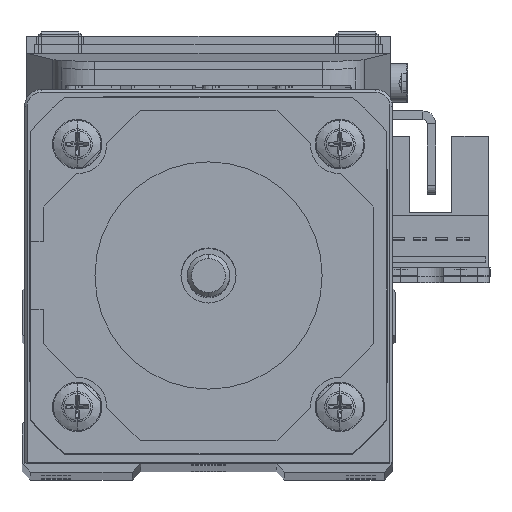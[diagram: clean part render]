
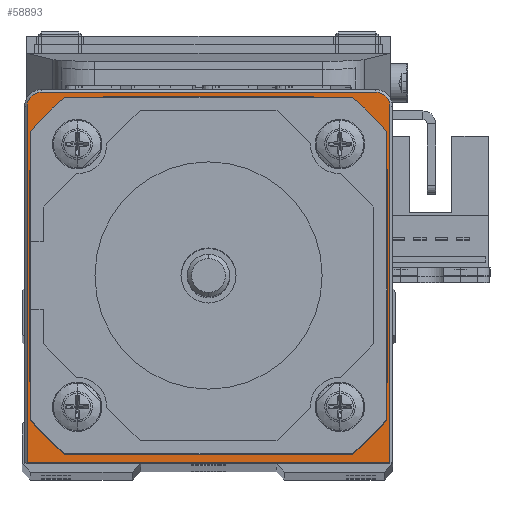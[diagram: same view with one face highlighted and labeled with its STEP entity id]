
A CAD part, top view. The second image highlights one B-rep face of the part: STEP entity #58893.
In plain terms, the highlighted planar face has unit normal (0, 0, 1).
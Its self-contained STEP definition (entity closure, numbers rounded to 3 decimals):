
#1955 = CARTESIAN_POINT ( 'NONE',  ( -21.4, -22., 26.5 ) ) ;
#3157 = ORIENTED_EDGE ( 'NONE', *, *, #7102, .F. ) ;
#3315 = LINE ( 'NONE', #26624, #25701 ) ;
#5572 = CARTESIAN_POINT ( 'NONE',  ( 0., 0., 26.5 ) ) ;
#5792 = DIRECTION ( 'NONE',  ( 0., 1., 0. ) ) ;
#7102 = EDGE_CURVE ( 'NONE', #33638, #39469, #12020, .T. ) ;
#8437 = CARTESIAN_POINT ( 'NONE',  ( 21.4, -22., 26.5 ) ) ;
#9099 = DIRECTION ( 'NONE',  ( 1., 0., 0. ) ) ;
#9599 = CIRCLE ( 'NONE', #52332, 10. ) ;
#10051 = ORIENTED_EDGE ( 'NONE', *, *, #73930, .T. ) ;
#10778 = VERTEX_POINT ( 'NONE', #20257 ) ;
#11689 = CARTESIAN_POINT ( 'NONE',  ( -21.7, -22., 26.5 ) ) ;
#12020 = CIRCLE ( 'NONE', #64537, 10. ) ;
#13186 = CARTESIAN_POINT ( 'NONE',  ( -19.7, 20., 26.5 ) ) ;
#14203 = DIRECTION ( 'NONE',  ( 1., 0., 0. ) ) ;
#14373 = AXIS2_PLACEMENT_3D ( 'NONE', #13186, #36521, #59847 ) ;
#14826 = PLANE ( 'NONE',  #45239 ) ;
#15406 = VECTOR ( 'NONE', #64689, 1000. ) ;
#17258 = EDGE_CURVE ( 'NONE', #27191, #36117, #34855, .T. ) ;
#18023 = LINE ( 'NONE', #41335, #15406 ) ;
#19188 = ORIENTED_EDGE ( 'NONE', *, *, #33228, .T. ) ;
#19224 = ORIENTED_EDGE ( 'NONE', *, *, #53934, .T. ) ;
#20257 = CARTESIAN_POINT ( 'NONE',  ( 19.7, 21.7, 26.5 ) ) ;
#20304 = EDGE_CURVE ( 'NONE', #34432, #67796, #47328, .T. ) ;
#22787 = CARTESIAN_POINT ( 'NONE',  ( 19.7, 20., 26.5 ) ) ;
#25701 = VECTOR ( 'NONE', #49936, 1000. ) ;
#26624 = CARTESIAN_POINT ( 'NONE',  ( -19.7, 21.7, 26.5 ) ) ;
#27191 = VERTEX_POINT ( 'NONE', #8437 ) ;
#27720 = CIRCLE ( 'NONE', #70469, 1.7 ) ;
#28894 = DIRECTION ( 'NONE',  ( 0., 0., 1. ) ) ;
#29280 = EDGE_CURVE ( 'NONE', #39469, #33638, #9599, .T. ) ;
#29999 = ORIENTED_EDGE ( 'NONE', *, *, #29280, .F. ) ;
#33228 = EDGE_CURVE ( 'NONE', #10778, #34432, #3315, .T. ) ;
#33638 = VERTEX_POINT ( 'NONE', #66707 ) ;
#34432 = VERTEX_POINT ( 'NONE', #42712 ) ;
#34855 = LINE ( 'NONE', #58166, #55272 ) ;
#35013 = DIRECTION ( 'NONE',  ( 1., 0., 0. ) ) ;
#36117 = VERTEX_POINT ( 'NONE', #57061 ) ;
#36521 = DIRECTION ( 'NONE',  ( 0., 0., 1. ) ) ;
#38167 = CARTESIAN_POINT ( 'NONE',  ( 0., 0., 26.5 ) ) ;
#38309 = CARTESIAN_POINT ( 'NONE',  ( -10., 0., 26.5 ) ) ;
#39469 = VERTEX_POINT ( 'NONE', #38309 ) ;
#41335 = CARTESIAN_POINT ( 'NONE',  ( -21.4, -22., 26.5 ) ) ;
#42712 = CARTESIAN_POINT ( 'NONE',  ( -19.7, 21.7, 26.5 ) ) ;
#43269 = CARTESIAN_POINT ( 'NONE',  ( 0., 0., 26.5 ) ) ;
#43875 = FACE_OUTER_BOUND ( 'NONE', #64112, .T. ) ;
#44241 = VERTEX_POINT ( 'NONE', #1955 ) ;
#45083 = ORIENTED_EDGE ( 'NONE', *, *, #20304, .T. ) ;
#45239 = AXIS2_PLACEMENT_3D ( 'NONE', #38167, #61498, #9099 ) ;
#46086 = DIRECTION ( 'NONE',  ( 0., 0., 1. ) ) ;
#47328 = CIRCLE ( 'NONE', #14373, 1.7 ) ;
#49681 = ORIENTED_EDGE ( 'NONE', *, *, #52065, .T. ) ;
#49936 = DIRECTION ( 'NONE',  ( -1., 0., 0. ) ) ;
#52065 = EDGE_CURVE ( 'NONE', #36117, #10778, #27720, .T. ) ;
#52203 = DIRECTION ( 'NONE',  ( 1., 0., 0. ) ) ;
#52332 = AXIS2_PLACEMENT_3D ( 'NONE', #43269, #66609, #14203 ) ;
#52441 = VECTOR ( 'NONE', #35013, 1000. ) ;
#53934 = EDGE_CURVE ( 'NONE', #44241, #27191, #64109, .T. ) ;
#55272 = VECTOR ( 'NONE', #5792, 1000. ) ;
#57061 = CARTESIAN_POINT ( 'NONE',  ( 21.4, 20., 26.5 ) ) ;
#57730 = CARTESIAN_POINT ( 'NONE',  ( -21.4, 20., 26.5 ) ) ;
#58166 = CARTESIAN_POINT ( 'NONE',  ( 21.4, 20., 26.5 ) ) ;
#58893 = ADVANCED_FACE ( 'NONE', ( #43875, #67231 ), #14826, .T. ) ;
#59847 = DIRECTION ( 'NONE',  ( 1., 0., 0. ) ) ;
#61498 = DIRECTION ( 'NONE',  ( 0., 0., 1. ) ) ;
#64109 = LINE ( 'NONE', #11689, #52441 ) ;
#64112 = EDGE_LOOP ( 'NONE', ( #19224, #72129, #49681, #19188, #45083, #10051 ) ) ;
#64537 = AXIS2_PLACEMENT_3D ( 'NONE', #5572, #28894, #52203 ) ;
#64689 = DIRECTION ( 'NONE',  ( 0., -1., 0. ) ) ;
#65911 = EDGE_LOOP ( 'NONE', ( #29999, #3157 ) ) ;
#66609 = DIRECTION ( 'NONE',  ( 0., 0., 1. ) ) ;
#66707 = CARTESIAN_POINT ( 'NONE',  ( 10., 0., 26.5 ) ) ;
#67231 = FACE_BOUND ( 'NONE', #65911, .T. ) ;
#67796 = VERTEX_POINT ( 'NONE', #57730 ) ;
#69462 = DIRECTION ( 'NONE',  ( 1., 0., 0. ) ) ;
#70469 = AXIS2_PLACEMENT_3D ( 'NONE', #22787, #46086, #69462 ) ;
#72129 = ORIENTED_EDGE ( 'NONE', *, *, #17258, .T. ) ;
#73930 = EDGE_CURVE ( 'NONE', #67796, #44241, #18023, .T. ) ;
